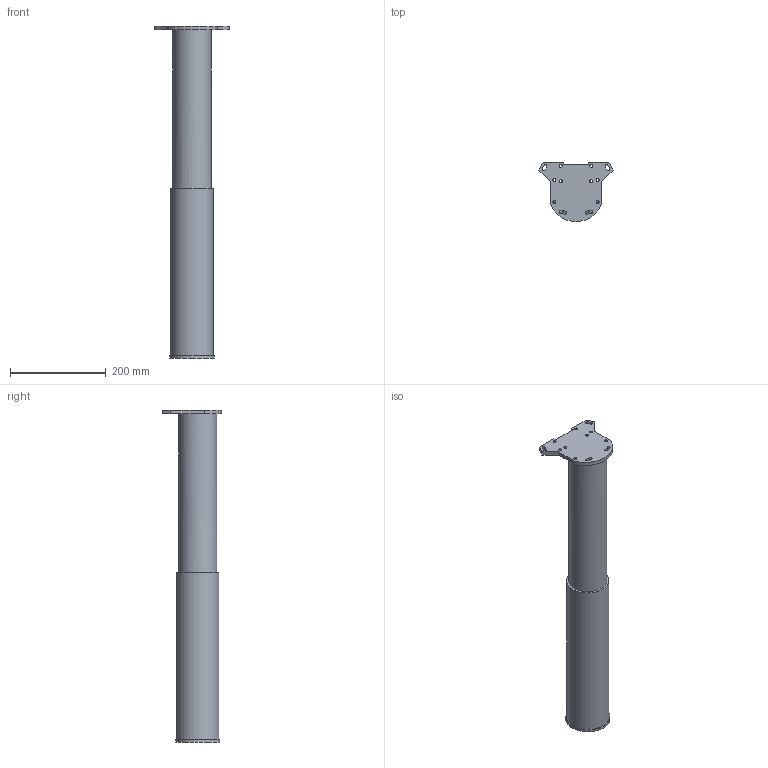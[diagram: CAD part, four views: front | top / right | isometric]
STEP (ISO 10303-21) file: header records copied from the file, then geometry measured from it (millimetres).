
FILE_DESCRIPTION( ( 'STEP AP214' ), '1' );
FILE_NAME( 'D:/Yug/2021/Desk_and_office_organisation/Correction in table leg fixing/QC/46063.stp', '2021-08-10T12:37:47', ( '' ), ( '' ), ' ', 'PARTsolutions', ' ' );
FILE_SCHEMA( ( 'AUTOMOTIVE_DESIGN { 1 0 10303 214 1 1 1 1 }' ) );
Length unit declared in the file: millimetre
Products named in the file (1): _46063
Bounding box: 155.69 x 124 x 695 mm (x, y, z)
Volume: 3979475.1 mm3; surface area: 217672.4 mm2
Topology: 1 solids, 1 shells, 46 faces, 125 edges, 82 vertices
Faces by surface type: plane 26, cylinder 20
Full cylindrical faces by diameter (mm): 6.5 x8, 80 x1, 89 x1, 92.7 x1
Entity records: 1830 total; most frequent: DIRECTION 252, CARTESIAN_POINT 241, ORIENTED_EDGE 226, EDGE_CURVE 113, AXIS2_PLACEMENT_3D 92, EDGE_LOOP 82, VERTEX_POINT 81, LINE 68
